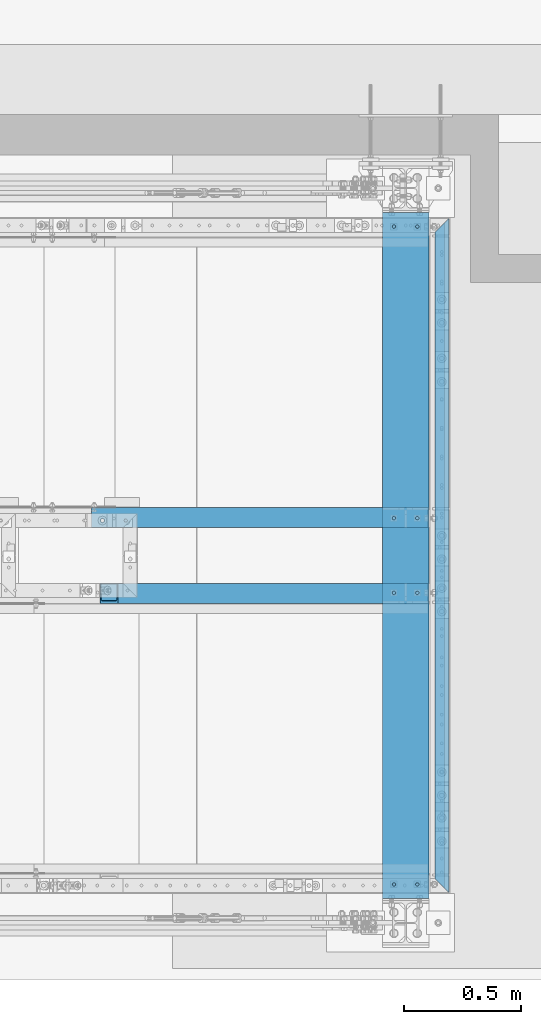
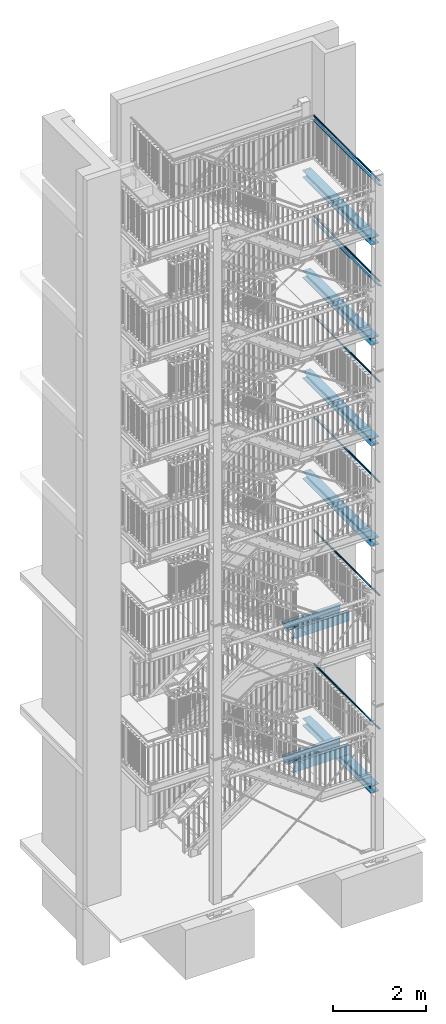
# One storey, part 128 of 825: 17 beams, 52 openings.
"""IFC2X3 building model written with IfcOpenShell, lengths in millimetres."""

from ifc_helpers import new_model, entity, si_unit, converted_unit, frame, frame_2d, origin, origin_with_axes, origin_2d, origin_2d_with_axis, place, context, project, spatial, rectangle, circle, hollow_circle, i_section, u_section, extrude, clip, halfspace, material, element, save


model = new_model("IFC2X3")

# Units and contexts
model_context = context("Model", 3, precision=1e-09, world=origin_with_axes())
ifc_project = project(units=[si_unit("LENGTHUNIT", "METRE", prefix="MILLI"), si_unit("AREAUNIT", "SQUARE_METRE"), si_unit("VOLUMEUNIT", "CUBIC_METRE"), converted_unit("PLANEANGLEUNIT", "DEGREE", entity("IfcPlaneAngleMeasure", 0.01745329), si_unit("PLANEANGLEUNIT", "RADIAN"), dimensions=[0, 0, 0, 0, 0, 0, 0])], contexts=[model_context])

# Site, building, storey
site_placement = place(None, origin_with_axes())
site = spatial("IfcSite", under=ifc_project, at=site_placement, Name="Cnopf'sche Kinderklinik", CompositionType="ELEMENT")
building_placement = place(site_placement, origin_with_axes())
building = spatial("IfcBuilding", under=site, at=building_placement, Name="Struktur 1", CompositionType="ELEMENT")
storey_placement = place(building_placement, origin_with_axes())
storey = spatial("IfcBuildingStorey", under=building, at=storey_placement, Name="Default Storey", CompositionType="ELEMENT", Elevation=0.0)

# Beam, openings
ifc_material = material(Name="S235JR")
beam_1_placement = place(None, frame((8866.713402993, 7559.668114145, 1846.0526312), z_axis=(0.0, -1.0, 0.0), x_axis=(-1.0, 0.0, 0.0)))
beam_1 = element("IfcBeam", 1, at=beam_1_placement, inside=storey, material=ifc_material, Name="Girder", ObjectType="Girder", context=model_context, shape_type="Clipping", body=[
    clip(clip(extrude(i_section(OverallWidth=200.0, OverallDepth=190.0, WebThickness=6.5, FlangeThickness=10.0, FilletRadius=18.0, at=origin_2d()), origin(), (0.0, 0.0, 1.0), 3235.862284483), halfspace(frame((8866.713402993, 1846.0526312, 147.932142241), z_axis=(0.0, 0.0, 1.0), x_axis=(-1.0, 0.0, 0.0)), True)), halfspace(frame((8866.713402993, 1846.0526312, 3087.930142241), z_axis=(0.0, 0.0, -1.0), x_axis=(1.0, 0.0, 0.0)), True)),
])
opening_1_placement = place(beam_1_placement, frame((-50.0, -84.5, 1784.932142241), z_axis=(0.0, 1.0, 0.0), x_axis=(-1.0, 0.0, 0.0)))
element("IfcOpeningElement", 2, at=opening_1_placement, cuts=beam_1, ObjectType="Opening", context=model_context, shape_type="SweptSolid", body=[
    extrude(circle(Radius=7.001, at=frame_2d((0.0, -7.001), x_axis=(1.0, 0.0))), origin(), (0.0, 0.0, -1.0), 11.0),
])
opening_2_placement = place(beam_1_placement, frame((50.0, -84.5, 207.931142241), z_axis=(0.0, -1.0, 0.0), x_axis=(0.0, 0.0, -1.0)))
element("IfcOpeningElement", 3, at=opening_2_placement, cuts=beam_1, ObjectType="Opening", context=model_context, shape_type="SweptSolid", body=[
    extrude(circle(Radius=7.001, at=origin_2d_with_axis()), origin(), (0.0, 0.0, 1.0), 11.0),
])
opening_3_placement = place(beam_1_placement, frame((50.0, -84.5, 1457.931142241), z_axis=(0.0, -1.0, 0.0), x_axis=(0.0, 0.0, -1.0)))
element("IfcOpeningElement", 4, at=opening_3_placement, cuts=beam_1, ObjectType="Opening", context=model_context, shape_type="SweptSolid", body=[
    extrude(circle(Radius=7.001, at=origin_2d_with_axis()), origin(), (0.0, 0.0, 1.0), 11.0),
])
opening_4_placement = place(beam_1_placement, frame((50.0, -84.5, 3034.932142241), z_axis=(0.0, 1.0, 0.0), x_axis=(-1.0, 0.0, 0.0)))
element("IfcOpeningElement", 5, at=opening_4_placement, cuts=beam_1, ObjectType="Opening", context=model_context, shape_type="SweptSolid", body=[
    extrude(circle(Radius=7.001, at=frame_2d((0.0, -7.001), x_axis=(1.0, 0.0))), origin(), (0.0, 0.0, -1.0), 11.0),
])
opening_5_placement = place(beam_1_placement, frame((-50.0, -84.5, 207.931142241), z_axis=(0.0, -1.0, 0.0), x_axis=(0.0, 0.0, -1.0)))
element("IfcOpeningElement", 6, at=opening_5_placement, cuts=beam_1, ObjectType="Opening", context=model_context, shape_type="SweptSolid", body=[
    extrude(circle(Radius=7.001, at=origin_2d_with_axis()), origin(), (0.0, 0.0, 1.0), 11.0),
])
opening_6_placement = place(beam_1_placement, frame((-50.0, -84.5, 3034.932142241), z_axis=(0.0, 1.0, 0.0), x_axis=(-1.0, 0.0, 0.0)))
element("IfcOpeningElement", 7, at=opening_6_placement, cuts=beam_1, ObjectType="Opening", context=model_context, shape_type="SweptSolid", body=[
    extrude(circle(Radius=7.001, at=frame_2d((0.0, -7.001), x_axis=(1.0, 0.0))), origin(), (0.0, 0.0, -1.0), 11.0),
])
opening_7_placement = place(beam_1_placement, frame((-50.0, -84.5, 1457.931142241), z_axis=(0.0, -1.0, 0.0), x_axis=(0.0, 0.0, -1.0)))
element("IfcOpeningElement", 8, at=opening_7_placement, cuts=beam_1, ObjectType="Opening", context=model_context, shape_type="SweptSolid", body=[
    extrude(circle(Radius=7.001, at=origin_2d_with_axis()), origin(), (0.0, 0.0, 1.0), 11.0),
])
opening_8_placement = place(beam_1_placement, frame((50.0, -84.5, 1784.932142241), z_axis=(0.0, 1.0, 0.0), x_axis=(-1.0, 0.0, 0.0)))
element("IfcOpeningElement", 9, at=opening_8_placement, cuts=beam_1, ObjectType="Opening", context=model_context, shape_type="SweptSolid", body=[
    extrude(circle(Radius=7.001, at=frame_2d((0.0, -7.001), x_axis=(1.0, 0.0))), origin(), (0.0, 0.0, -1.0), 11.0),
])

beam_2_placement = place(None, frame((8866.713402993, 7559.668114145, 8301.0), z_axis=(0.0, -1.0, 0.0), x_axis=(-1.0, 0.0, 0.0)))
beam_2 = element("IfcBeam", 10, at=beam_2_placement, inside=storey, material=ifc_material, Name="Girder", ObjectType="Girder", context=model_context, shape_type="Clipping", body=[
    clip(clip(extrude(i_section(OverallWidth=200.0, OverallDepth=190.0, WebThickness=6.5, FlangeThickness=10.0, FilletRadius=18.0, at=origin_2d()), origin(), (0.0, 0.0, 1.0), 3235.862284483), halfspace(frame((8866.713402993, 8301.0, 3087.930142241), z_axis=(0.0, 0.0, -1.0), x_axis=(1.0, 0.0, 0.0)), True)), halfspace(frame((8866.713402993, 8301.0, 147.932142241), z_axis=(0.0, 0.0, 1.0), x_axis=(-1.0, 0.0, 0.0)), True)),
])
opening_9_placement = place(beam_2_placement, frame((-50.0, -84.5, 207.931142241), z_axis=(0.0, -1.0, 0.0), x_axis=(0.0, 0.0, -1.0)))
element("IfcOpeningElement", 11, at=opening_9_placement, cuts=beam_2, ObjectType="Opening", context=model_context, shape_type="SweptSolid", body=[
    extrude(circle(Radius=7.001, at=origin_2d_with_axis()), origin(), (0.0, 0.0, 1.0), 11.0),
])
opening_10_placement = place(beam_2_placement, frame((50.0, -84.5, 3034.932142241), z_axis=(0.0, 1.0, 0.0), x_axis=(-1.0, 0.0, 0.0)))
element("IfcOpeningElement", 12, at=opening_10_placement, cuts=beam_2, ObjectType="Opening", context=model_context, shape_type="SweptSolid", body=[
    extrude(circle(Radius=7.001, at=frame_2d((0.0, -7.001), x_axis=(1.0, 0.0))), origin(), (0.0, 0.0, -1.0), 11.0),
])
opening_11_placement = place(beam_2_placement, frame((50.0, -84.5, 1784.932142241), z_axis=(0.0, 1.0, 0.0), x_axis=(-1.0, 0.0, 0.0)))
element("IfcOpeningElement", 13, at=opening_11_placement, cuts=beam_2, ObjectType="Opening", context=model_context, shape_type="SweptSolid", body=[
    extrude(circle(Radius=7.001, at=frame_2d((0.0, -7.001), x_axis=(1.0, 0.0))), origin(), (0.0, 0.0, -1.0), 11.0),
])
opening_12_placement = place(beam_2_placement, frame((-50.0, -84.5, 3034.932142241), z_axis=(0.0, 1.0, 0.0), x_axis=(-1.0, 0.0, 0.0)))
element("IfcOpeningElement", 14, at=opening_12_placement, cuts=beam_2, ObjectType="Opening", context=model_context, shape_type="SweptSolid", body=[
    extrude(circle(Radius=7.001, at=frame_2d((0.0, -7.001), x_axis=(1.0, 0.0))), origin(), (0.0, 0.0, -1.0), 11.0),
])
opening_13_placement = place(beam_2_placement, frame((50.0, -84.5, 1457.931142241), z_axis=(0.0, -1.0, 0.0), x_axis=(0.0, 0.0, -1.0)))
element("IfcOpeningElement", 15, at=opening_13_placement, cuts=beam_2, ObjectType="Opening", context=model_context, shape_type="SweptSolid", body=[
    extrude(circle(Radius=7.001, at=origin_2d_with_axis()), origin(), (0.0, 0.0, 1.0), 11.0),
])
opening_14_placement = place(beam_2_placement, frame((50.0, -84.5, 207.931142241), z_axis=(0.0, -1.0, 0.0), x_axis=(0.0, 0.0, -1.0)))
element("IfcOpeningElement", 16, at=opening_14_placement, cuts=beam_2, ObjectType="Opening", context=model_context, shape_type="SweptSolid", body=[
    extrude(circle(Radius=7.001, at=origin_2d_with_axis()), origin(), (0.0, 0.0, 1.0), 11.0),
])
opening_15_placement = place(beam_2_placement, frame((-50.0, -84.5, 1784.932142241), z_axis=(0.0, 1.0, 0.0), x_axis=(-1.0, 0.0, 0.0)))
element("IfcOpeningElement", 17, at=opening_15_placement, cuts=beam_2, ObjectType="Opening", context=model_context, shape_type="SweptSolid", body=[
    extrude(circle(Radius=7.001, at=frame_2d((0.0, -7.001), x_axis=(1.0, 0.0))), origin(), (0.0, 0.0, -1.0), 11.0),
])
opening_16_placement = place(beam_2_placement, frame((-50.0, -84.5, 1457.931142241), z_axis=(0.0, -1.0, 0.0), x_axis=(0.0, 0.0, -1.0)))
element("IfcOpeningElement", 18, at=opening_16_placement, cuts=beam_2, ObjectType="Opening", context=model_context, shape_type="SweptSolid", body=[
    extrude(circle(Radius=7.001, at=origin_2d_with_axis()), origin(), (0.0, 0.0, 1.0), 11.0),
])

beam_3_placement = place(None, frame((8866.713402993, 7559.668114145, 10930.5000003), z_axis=(0.0, -1.0, 0.0), x_axis=(-1.0, 0.0, 0.0)))
beam_3 = element("IfcBeam", 19, at=beam_3_placement, inside=storey, material=ifc_material, Name="Girder", ObjectType="Girder", context=model_context, shape_type="Clipping", body=[
    clip(clip(extrude(i_section(OverallWidth=200.0, OverallDepth=190.0, WebThickness=6.5, FlangeThickness=10.0, FilletRadius=18.0, at=origin_2d()), origin(), (0.0, 0.0, 1.0), 3235.862284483), halfspace(frame((8866.713402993, 10930.5000003, 3087.930142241), z_axis=(0.0, 0.0, -1.0), x_axis=(1.0, 0.0, 0.0)), True)), halfspace(frame((8866.713402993, 10930.5000003, 147.932142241), z_axis=(0.0, 0.0, 1.0), x_axis=(-1.0, 0.0, 0.0)), True)),
])
opening_17_placement = place(beam_3_placement, frame((-50.0, -84.5, 1784.932142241), z_axis=(0.0, 1.0, 0.0), x_axis=(-1.0, 0.0, 0.0)))
element("IfcOpeningElement", 20, at=opening_17_placement, cuts=beam_3, ObjectType="Opening", context=model_context, shape_type="SweptSolid", body=[
    extrude(circle(Radius=7.001, at=frame_2d((0.0, -7.001), x_axis=(1.0, 0.0))), origin(), (0.0, 0.0, -1.0), 11.0),
])
opening_18_placement = place(beam_3_placement, frame((50.0, -84.5, 1457.931142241), z_axis=(0.0, -1.0, 0.0), x_axis=(0.0, 0.0, -1.0)))
element("IfcOpeningElement", 21, at=opening_18_placement, cuts=beam_3, ObjectType="Opening", context=model_context, shape_type="SweptSolid", body=[
    extrude(circle(Radius=7.001, at=origin_2d_with_axis()), origin(), (0.0, 0.0, 1.0), 11.0),
])
opening_19_placement = place(beam_3_placement, frame((50.0, -84.5, 207.931142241), z_axis=(0.0, -1.0, 0.0), x_axis=(0.0, 0.0, -1.0)))
element("IfcOpeningElement", 22, at=opening_19_placement, cuts=beam_3, ObjectType="Opening", context=model_context, shape_type="SweptSolid", body=[
    extrude(circle(Radius=7.001, at=origin_2d_with_axis()), origin(), (0.0, 0.0, 1.0), 11.0),
])
opening_20_placement = place(beam_3_placement, frame((50.0, -84.5, 3034.932142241), z_axis=(0.0, 1.0, 0.0), x_axis=(-1.0, 0.0, 0.0)))
element("IfcOpeningElement", 23, at=opening_20_placement, cuts=beam_3, ObjectType="Opening", context=model_context, shape_type="SweptSolid", body=[
    extrude(circle(Radius=7.001, at=frame_2d((0.0, -7.001), x_axis=(1.0, 0.0))), origin(), (0.0, 0.0, -1.0), 11.0),
])
opening_21_placement = place(beam_3_placement, frame((-50.0, -84.5, 207.931142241), z_axis=(0.0, -1.0, 0.0), x_axis=(0.0, 0.0, -1.0)))
element("IfcOpeningElement", 24, at=opening_21_placement, cuts=beam_3, ObjectType="Opening", context=model_context, shape_type="SweptSolid", body=[
    extrude(circle(Radius=7.001, at=origin_2d_with_axis()), origin(), (0.0, 0.0, 1.0), 11.0),
])
opening_22_placement = place(beam_3_placement, frame((50.0, -84.5, 1784.932142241), z_axis=(0.0, 1.0, 0.0), x_axis=(-1.0, 0.0, 0.0)))
element("IfcOpeningElement", 25, at=opening_22_placement, cuts=beam_3, ObjectType="Opening", context=model_context, shape_type="SweptSolid", body=[
    extrude(circle(Radius=7.001, at=frame_2d((0.0, -7.001), x_axis=(1.0, 0.0))), origin(), (0.0, 0.0, -1.0), 11.0),
])
opening_23_placement = place(beam_3_placement, frame((-50.0, -84.5, 1457.931142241), z_axis=(0.0, -1.0, 0.0), x_axis=(0.0, 0.0, -1.0)))
element("IfcOpeningElement", 26, at=opening_23_placement, cuts=beam_3, ObjectType="Opening", context=model_context, shape_type="SweptSolid", body=[
    extrude(circle(Radius=7.001, at=origin_2d_with_axis()), origin(), (0.0, 0.0, 1.0), 11.0),
])
opening_24_placement = place(beam_3_placement, frame((-50.0, -84.5, 3034.932142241), z_axis=(0.0, 1.0, 0.0), x_axis=(-1.0, 0.0, 0.0)))
element("IfcOpeningElement", 27, at=opening_24_placement, cuts=beam_3, ObjectType="Opening", context=model_context, shape_type="SweptSolid", body=[
    extrude(circle(Radius=7.001, at=frame_2d((0.0, -7.001), x_axis=(1.0, 0.0))), origin(), (0.0, 0.0, -1.0), 11.0),
])

beam_4_placement = place(None, frame((8866.713402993, 7559.668114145, 13561.5000001), z_axis=(0.0, -1.0, 0.0), x_axis=(-1.0, 0.0, 0.0)))
beam_4 = element("IfcBeam", 28, at=beam_4_placement, inside=storey, material=ifc_material, Name="Girder", ObjectType="Girder", context=model_context, shape_type="Clipping", body=[
    clip(clip(extrude(i_section(OverallWidth=200.0, OverallDepth=190.0, WebThickness=6.5, FlangeThickness=10.0, FilletRadius=18.0, at=origin_2d()), origin(), (0.0, 0.0, 1.0), 3235.862284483), halfspace(frame((8866.713402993, 13561.5000001, 3087.930142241), z_axis=(0.0, 0.0, -1.0), x_axis=(1.0, 0.0, 0.0)), True)), halfspace(frame((8866.713402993, 13561.5000001, 147.932142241), z_axis=(0.0, 0.0, 1.0), x_axis=(-1.0, 0.0, 0.0)), True)),
])
opening_25_placement = place(beam_4_placement, frame((50.0, -84.5, 1457.931142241), z_axis=(0.0, -1.0, 0.0), x_axis=(0.0, 0.0, -1.0)))
element("IfcOpeningElement", 29, at=opening_25_placement, cuts=beam_4, ObjectType="Opening", context=model_context, shape_type="SweptSolid", body=[
    extrude(circle(Radius=7.001, at=origin_2d_with_axis()), origin(), (0.0, 0.0, 1.0), 11.0),
])
opening_26_placement = place(beam_4_placement, frame((50.0, -84.5, 207.931142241), z_axis=(0.0, -1.0, 0.0), x_axis=(0.0, 0.0, -1.0)))
element("IfcOpeningElement", 30, at=opening_26_placement, cuts=beam_4, ObjectType="Opening", context=model_context, shape_type="SweptSolid", body=[
    extrude(circle(Radius=7.001, at=origin_2d_with_axis()), origin(), (0.0, 0.0, 1.0), 11.0),
])
opening_27_placement = place(beam_4_placement, frame((-50.0, -84.5, 3034.932142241), z_axis=(0.0, 1.0, 0.0), x_axis=(-1.0, 0.0, 0.0)))
element("IfcOpeningElement", 31, at=opening_27_placement, cuts=beam_4, ObjectType="Opening", context=model_context, shape_type="SweptSolid", body=[
    extrude(circle(Radius=7.001, at=frame_2d((0.0, -7.001), x_axis=(1.0, 0.0))), origin(), (0.0, 0.0, -1.0), 11.0),
])
opening_28_placement = place(beam_4_placement, frame((-50.0, -84.5, 1457.931142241), z_axis=(0.0, -1.0, 0.0), x_axis=(0.0, 0.0, -1.0)))
element("IfcOpeningElement", 32, at=opening_28_placement, cuts=beam_4, ObjectType="Opening", context=model_context, shape_type="SweptSolid", body=[
    extrude(circle(Radius=7.001, at=origin_2d_with_axis()), origin(), (0.0, 0.0, 1.0), 11.0),
])
opening_29_placement = place(beam_4_placement, frame((50.0, -84.5, 3034.932142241), z_axis=(0.0, 1.0, 0.0), x_axis=(-1.0, 0.0, 0.0)))
element("IfcOpeningElement", 33, at=opening_29_placement, cuts=beam_4, ObjectType="Opening", context=model_context, shape_type="SweptSolid", body=[
    extrude(circle(Radius=7.001, at=frame_2d((0.0, -7.001), x_axis=(1.0, 0.0))), origin(), (0.0, 0.0, -1.0), 11.0),
])
opening_30_placement = place(beam_4_placement, frame((-50.0, -84.5, 1784.932142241), z_axis=(0.0, 1.0, 0.0), x_axis=(-1.0, 0.0, 0.0)))
element("IfcOpeningElement", 34, at=opening_30_placement, cuts=beam_4, ObjectType="Opening", context=model_context, shape_type="SweptSolid", body=[
    extrude(circle(Radius=7.001, at=frame_2d((0.0, -7.001), x_axis=(1.0, 0.0))), origin(), (0.0, 0.0, -1.0), 11.0),
])
opening_31_placement = place(beam_4_placement, frame((50.0, -84.5, 1784.932142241), z_axis=(0.0, 1.0, 0.0), x_axis=(-1.0, 0.0, 0.0)))
element("IfcOpeningElement", 35, at=opening_31_placement, cuts=beam_4, ObjectType="Opening", context=model_context, shape_type="SweptSolid", body=[
    extrude(circle(Radius=7.001, at=frame_2d((0.0, -7.001), x_axis=(1.0, 0.0))), origin(), (0.0, 0.0, -1.0), 11.0),
])
opening_32_placement = place(beam_4_placement, frame((-50.0, -84.5, 207.931142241), z_axis=(0.0, -1.0, 0.0), x_axis=(0.0, 0.0, -1.0)))
element("IfcOpeningElement", 36, at=opening_32_placement, cuts=beam_4, ObjectType="Opening", context=model_context, shape_type="SweptSolid", body=[
    extrude(circle(Radius=7.001, at=origin_2d_with_axis()), origin(), (0.0, 0.0, 1.0), 11.0),
])

beam_5_placement = place(None, frame((8866.713402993, 7559.668114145, 16189.0000003), z_axis=(0.0, -1.0, 0.0), x_axis=(-1.0, 0.0, 0.0)))
beam_5 = element("IfcBeam", 37, at=beam_5_placement, inside=storey, material=ifc_material, Name="Girder", ObjectType="Girder", context=model_context, shape_type="Clipping", body=[
    clip(clip(extrude(i_section(OverallWidth=200.0, OverallDepth=190.0, WebThickness=6.5, FlangeThickness=10.0, FilletRadius=18.0, at=origin_2d()), origin(), (0.0, 0.0, 1.0), 3235.862284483), halfspace(frame((8866.713402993, 16189.0000003, 3087.930142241), z_axis=(0.0, 0.0, -1.0), x_axis=(1.0, 0.0, 0.0)), True)), halfspace(frame((8866.713402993, 16189.0000003, 147.932142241), z_axis=(0.0, 0.0, 1.0), x_axis=(-1.0, 0.0, 0.0)), True)),
])
opening_33_placement = place(beam_5_placement, frame((50.0, -84.5, 1784.932142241), z_axis=(0.0, 1.0, 0.0), x_axis=(-1.0, 0.0, 0.0)))
element("IfcOpeningElement", 38, at=opening_33_placement, cuts=beam_5, ObjectType="Opening", context=model_context, shape_type="SweptSolid", body=[
    extrude(circle(Radius=7.001, at=frame_2d((0.0, -7.001), x_axis=(1.0, 0.0))), origin(), (0.0, 0.0, -1.0), 11.0),
])
opening_34_placement = place(beam_5_placement, frame((-50.0, -84.5, 1457.931142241), z_axis=(0.0, -1.0, 0.0), x_axis=(0.0, 0.0, -1.0)))
element("IfcOpeningElement", 39, at=opening_34_placement, cuts=beam_5, ObjectType="Opening", context=model_context, shape_type="SweptSolid", body=[
    extrude(circle(Radius=7.001, at=origin_2d_with_axis()), origin(), (0.0, 0.0, 1.0), 11.0),
])
opening_35_placement = place(beam_5_placement, frame((-50.0, -84.5, 207.931142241), z_axis=(0.0, -1.0, 0.0), x_axis=(0.0, 0.0, -1.0)))
element("IfcOpeningElement", 40, at=opening_35_placement, cuts=beam_5, ObjectType="Opening", context=model_context, shape_type="SweptSolid", body=[
    extrude(circle(Radius=7.001, at=origin_2d_with_axis()), origin(), (0.0, 0.0, 1.0), 11.0),
])
opening_36_placement = place(beam_5_placement, frame((50.0, -84.5, 1457.931142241), z_axis=(0.0, -1.0, 0.0), x_axis=(0.0, 0.0, -1.0)))
element("IfcOpeningElement", 41, at=opening_36_placement, cuts=beam_5, ObjectType="Opening", context=model_context, shape_type="SweptSolid", body=[
    extrude(circle(Radius=7.001, at=origin_2d_with_axis()), origin(), (0.0, 0.0, 1.0), 11.0),
])
opening_37_placement = place(beam_5_placement, frame((50.0, -84.5, 207.931142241), z_axis=(0.0, -1.0, 0.0), x_axis=(0.0, 0.0, -1.0)))
element("IfcOpeningElement", 42, at=opening_37_placement, cuts=beam_5, ObjectType="Opening", context=model_context, shape_type="SweptSolid", body=[
    extrude(circle(Radius=7.001, at=origin_2d_with_axis()), origin(), (0.0, 0.0, 1.0), 11.0),
])
opening_38_placement = place(beam_5_placement, frame((50.0, -84.5, 3034.932142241), z_axis=(0.0, 1.0, 0.0), x_axis=(-1.0, 0.0, 0.0)))
element("IfcOpeningElement", 43, at=opening_38_placement, cuts=beam_5, ObjectType="Opening", context=model_context, shape_type="SweptSolid", body=[
    extrude(circle(Radius=7.001, at=frame_2d((0.0, -7.001), x_axis=(1.0, 0.0))), origin(), (0.0, 0.0, -1.0), 11.0),
])
opening_39_placement = place(beam_5_placement, frame((-50.0, -84.5, 1784.932142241), z_axis=(0.0, 1.0, 0.0), x_axis=(-1.0, 0.0, 0.0)))
element("IfcOpeningElement", 44, at=opening_39_placement, cuts=beam_5, ObjectType="Opening", context=model_context, shape_type="SweptSolid", body=[
    extrude(circle(Radius=7.001, at=frame_2d((0.0, -7.001), x_axis=(1.0, 0.0))), origin(), (0.0, 0.0, -1.0), 11.0),
])
opening_40_placement = place(beam_5_placement, frame((-50.0, -84.5, 3034.932142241), z_axis=(0.0, 1.0, 0.0), x_axis=(-1.0, 0.0, 0.0)))
element("IfcOpeningElement", 45, at=opening_40_placement, cuts=beam_5, ObjectType="Opening", context=model_context, shape_type="SweptSolid", body=[
    extrude(circle(Radius=7.001, at=frame_2d((0.0, -7.001), x_axis=(1.0, 0.0))), origin(), (0.0, 0.0, -1.0), 11.0),
])

# Beams
beam_6_placement = place(None, frame((9012.913402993, 7390.336971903, 3321.0526312), z_axis=(0.0, 1.0, 0.0), x_axis=(0.0, 0.0, -1.0)))
element("IfcBeam", 46, at=beam_6_placement, inside=storey, material=ifc_material, Name="Gel?nder", ObjectType="Gel?nder", context=model_context, shape_type="Clipping", body=[
    clip(clip(extrude(hollow_circle(Radius=21.2, WallThickness=3.2, at=origin_2d()), origin(), (0.0, 0.0, -1.0), 2897.2), halfspace(frame((3321.0526312, 8180.424480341, -8222.825894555), z_axis=(0.0, -0.707106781, -0.707106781), x_axis=(0.0, -0.707106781, 0.707106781)), True)), halfspace(frame((3321.0526312, 2238.687508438, -616.111077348), z_axis=(0.0, -0.707106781, 0.707106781), x_axis=(0.0, 0.707106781, 0.707106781)), True)),
])
beam_7_placement = place(None, frame((9012.913402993, 7390.336971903, 6814.8947367), z_axis=(0.0, 1.0, 0.0), x_axis=(0.0, 0.0, -1.0)))
element("IfcBeam", 47, at=beam_7_placement, inside=storey, material=ifc_material, Name="Gel?nder", ObjectType="Gel?nder", context=model_context, shape_type="Clipping", body=[
    clip(clip(extrude(hollow_circle(Radius=21.2, WallThickness=3.2, at=origin_2d()), origin(), (0.0, 0.0, -1.0), 2897.2), halfspace(frame((6814.8947367, 8180.424480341, -8222.825894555), z_axis=(0.0, -0.707106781, -0.707106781), x_axis=(0.0, -0.707106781, 0.707106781)), True)), halfspace(frame((6814.8947367, 2238.687508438, -616.111077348), z_axis=(0.0, -0.707106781, 0.707106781), x_axis=(0.0, 0.707106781, 0.707106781)), True)),
])

# Beam, openings
beam_8_placement = place(None, frame((7260.434507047, 6124.436971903, 5554.8947367), z_axis=(-1.0, 0.0, 0.0), x_axis=(0.0, -1.0, 0.0)))
beam_8 = element("IfcBeam", 48, at=beam_8_placement, inside=storey, material=ifc_material, Name="Stringer", ObjectType="Stringer", context=model_context, shape_type="Clipping", body=[
    clip(clip(extrude(u_section(Depth=240.0, FlangeWidth=85.0, WebThickness=9.5, FlangeThickness=13.0, FilletRadius=13.0, EdgeRadius=6.5, FlangeSlope=4.574, at=frame_2d((20.2, 0.0))), origin(), (0.0, 0.0, -1.0), 1958.582666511), halfspace(frame((6124.436971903, -5554.8947367, -1701.277895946), z_axis=(0.0, 0.0, 1.0), x_axis=(1.0, 0.0, 0.0)), True)), halfspace(frame((6124.436971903, -2876.228700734, -1207.214407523), z_axis=(0.0, 0.301609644, -0.953431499), x_axis=(-1.0, 0.0, 0.0)), True)),
])
opening_41_placement = place(beam_8_placement, frame((32.7, 120.5, -399.278395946), z_axis=(0.0, 1.0, 0.0), x_axis=(-1.0, 0.0, 0.0)))
element("IfcOpeningElement", 49, at=opening_41_placement, cuts=beam_8, ObjectType="Opening", context=model_context, shape_type="SweptSolid", body=[
    extrude(circle(Radius=7.001, at=frame_2d((0.0, -7.001), x_axis=(1.0, 0.0))), origin(), (0.0, 0.0, -1.0), 14.0),
])
opening_42_placement = place(beam_8_placement, frame((32.7, 120.5, -299.278395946), z_axis=(0.0, 1.0, 0.0), x_axis=(-1.0, 0.0, 0.0)))
element("IfcOpeningElement", 50, at=opening_42_placement, cuts=beam_8, ObjectType="Opening", context=model_context, shape_type="SweptSolid", body=[
    extrude(circle(Radius=7.001, at=frame_2d((0.0, -7.001), x_axis=(1.0, 0.0))), origin(), (0.0, 0.0, -1.0), 14.0),
])
opening_43_placement = place(beam_8_placement, frame((22.7, -120.5, -1556.278895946), z_axis=(0.0, 1.0, 0.0), x_axis=(-1.0, 0.0, 0.0)))
element("IfcOpeningElement", 51, at=opening_43_placement, cuts=beam_8, ObjectType="Opening", context=model_context, shape_type="SweptSolid", body=[
    extrude(circle(Radius=7.001, at=origin_2d_with_axis()), origin(), (0.0, 0.0, 1.0), 14.0),
])
opening_44_placement = place(beam_8_placement, frame((22.7, -120.5, -1656.278895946), z_axis=(0.0, 1.0, 0.0), x_axis=(-1.0, 0.0, 0.0)))
element("IfcOpeningElement", 52, at=opening_44_placement, cuts=beam_8, ObjectType="Opening", context=model_context, shape_type="SweptSolid", body=[
    extrude(circle(Radius=7.001, at=origin_2d_with_axis()), origin(), (0.0, 0.0, 1.0), 14.0),
])

# Beams
beam_9_placement = place(None, frame((9012.913402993, 7390.336971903, 9776.0), z_axis=(0.0, 1.0, 0.0), x_axis=(0.0, 0.0, -1.0)))
element("IfcBeam", 53, at=beam_9_placement, inside=storey, material=ifc_material, Name="Gel?nder", ObjectType="Gel?nder", context=model_context, shape_type="Clipping", body=[
    clip(clip(extrude(hollow_circle(Radius=21.2, WallThickness=3.2, at=origin_2d()), origin(), (0.0, 0.0, -1.0), 2897.2), halfspace(frame((9776.0, 8180.424480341, -8222.825894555), z_axis=(0.0, -0.707106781, -0.707106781), x_axis=(0.0, -0.707106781, 0.707106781)), True)), halfspace(frame((9776.0, 2238.687508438, -616.111077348), z_axis=(0.0, -0.707106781, 0.707106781), x_axis=(0.0, 0.707106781, 0.707106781)), True)),
])
beam_10_placement = place(None, frame((9012.913402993, 7390.336971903, 12405.5000003), z_axis=(0.0, 1.0, 0.0), x_axis=(0.0, 0.0, -1.0)))
element("IfcBeam", 54, at=beam_10_placement, inside=storey, material=ifc_material, Name="Gel?nder", ObjectType="Gel?nder", context=model_context, shape_type="Clipping", body=[
    clip(clip(extrude(hollow_circle(Radius=21.2, WallThickness=3.2, at=origin_2d()), origin(), (0.0, 0.0, -1.0), 2897.2), halfspace(frame((12405.5000003, 8180.424480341, -8222.825894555), z_axis=(0.0, -0.707106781, -0.707106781), x_axis=(0.0, -0.707106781, 0.707106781)), True)), halfspace(frame((12405.5000003, 2238.687508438, -616.111077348), z_axis=(0.0, -0.707106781, 0.707106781), x_axis=(0.0, 0.707106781, 0.707106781)), True)),
])
beam_11_placement = place(None, frame((9012.913402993, 7390.336971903, 15036.5000001), z_axis=(0.0, 1.0, 0.0), x_axis=(0.0, 0.0, -1.0)))
element("IfcBeam", 55, at=beam_11_placement, inside=storey, material=ifc_material, Name="Gel?nder", ObjectType="Gel?nder", context=model_context, shape_type="Clipping", body=[
    clip(clip(extrude(hollow_circle(Radius=21.2, WallThickness=3.2, at=origin_2d()), origin(), (0.0, 0.0, -1.0), 2897.2), halfspace(frame((15036.5000001, 8180.424480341, -8222.825894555), z_axis=(0.0, -0.707106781, -0.707106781), x_axis=(0.0, -0.707106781, 0.707106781)), True)), halfspace(frame((15036.5000001, 2238.687508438, -616.111077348), z_axis=(0.0, -0.707106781, 0.707106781), x_axis=(0.0, 0.707106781, 0.707106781)), True)),
])

# Beam, openings
beam_12_placement = place(None, frame((7260.901415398, 6124.436971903, 2061.0526312), z_axis=(-1.0, 0.0, 0.0), x_axis=(0.0, -1.0, 0.0)))
beam_12 = element("IfcBeam", 56, at=beam_12_placement, inside=storey, material=ifc_material, Name="Stringer", ObjectType="Stringer", context=model_context, shape_type="Clipping", body=[
    clip(clip(extrude(u_section(Depth=240.0, FlangeWidth=85.0, WebThickness=9.5, FlangeThickness=13.0, FilletRadius=13.0, EdgeRadius=6.5, FlangeSlope=4.574, at=frame_2d((20.2, 0.0))), origin(), (0.0, 0.0, -1.0), 1958.11575816), halfspace(frame((6124.436971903, -2061.0526312, -1700.810987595), z_axis=(0.0, 0.0, 1.0), x_axis=(1.0, 0.0, 0.0)), True)), halfspace(frame((6124.436971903, 321.948595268, -195.084170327), z_axis=(0.0, 0.304437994, -0.952532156), x_axis=(-1.0, 0.0, 0.0)), True)),
])
opening_45_placement = place(beam_12_placement, frame((32.7, 120.5, -398.811487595), z_axis=(0.0, 1.0, 0.0), x_axis=(-1.0, 0.0, 0.0)))
element("IfcOpeningElement", 57, at=opening_45_placement, cuts=beam_12, ObjectType="Opening", context=model_context, shape_type="SweptSolid", body=[
    extrude(circle(Radius=7.001, at=frame_2d((0.0, -7.001), x_axis=(1.0, 0.0))), origin(), (0.0, 0.0, -1.0), 14.0),
])
opening_46_placement = place(beam_12_placement, frame((32.7, 120.5, -298.811487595), z_axis=(0.0, 1.0, 0.0), x_axis=(-1.0, 0.0, 0.0)))
element("IfcOpeningElement", 58, at=opening_46_placement, cuts=beam_12, ObjectType="Opening", context=model_context, shape_type="SweptSolid", body=[
    extrude(circle(Radius=7.001, at=frame_2d((0.0, -7.001), x_axis=(1.0, 0.0))), origin(), (0.0, 0.0, -1.0), 14.0),
])
opening_47_placement = place(beam_12_placement, frame((22.7, -120.5, -1555.811987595), z_axis=(0.0, 1.0, 0.0), x_axis=(-1.0, 0.0, 0.0)))
element("IfcOpeningElement", 59, at=opening_47_placement, cuts=beam_12, ObjectType="Opening", context=model_context, shape_type="SweptSolid", body=[
    extrude(circle(Radius=7.001, at=origin_2d_with_axis()), origin(), (0.0, 0.0, 1.0), 14.0),
])
opening_48_placement = place(beam_12_placement, frame((22.7, -120.5, -1655.811987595), z_axis=(0.0, 1.0, 0.0), x_axis=(-1.0, 0.0, 0.0)))
element("IfcOpeningElement", 60, at=opening_48_placement, cuts=beam_12, ObjectType="Opening", context=model_context, shape_type="SweptSolid", body=[
    extrude(circle(Radius=7.001, at=origin_2d_with_axis()), origin(), (0.0, 0.0, 1.0), 14.0),
])

# Beam
beam_13_placement = place(None, frame((9012.913402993, 7390.336971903, 17664.0000003), z_axis=(0.0, 1.0, 0.0), x_axis=(0.0, 0.0, -1.0)))
element("IfcBeam", 61, at=beam_13_placement, inside=storey, material=ifc_material, Name="Gel?nder", ObjectType="Gel?nder", context=model_context, shape_type="Clipping", body=[
    clip(clip(extrude(hollow_circle(Radius=21.2, WallThickness=3.2, at=origin_2d()), origin(), (0.0, 0.0, -1.0), 2897.2), halfspace(frame((17664.0000003, 8180.424480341, -8222.825894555), z_axis=(0.0, -0.707106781, -0.707106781), x_axis=(0.0, -0.707106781, 0.707106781)), True)), halfspace(frame((17664.0000003, 2238.687508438, -616.111077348), z_axis=(0.0, -0.707106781, 0.707106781), x_axis=(0.0, 0.707106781, 0.707106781)), True)),
])

# Beam, openings
beam_14_placement = place(None, frame((9219.017173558, 5759.036971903, 2061.0526312), z_axis=(1.0, 0.0, 0.0), x_axis=(0.0, 1.0, 0.0)))
beam_14 = element("IfcBeam", 62, at=beam_14_placement, inside=storey, material=ifc_material, Name="BottomLanding#1", ObjectType="BottomLanding#1", context=model_context, shape_type="Clipping", body=[
    clip(clip(extrude(u_section(Depth=240.0, FlangeWidth=85.0, WebThickness=9.5, FlangeThickness=13.0, FilletRadius=13.0, EdgeRadius=6.5, FlangeSlope=4.574, at=frame_2d((20.2, 0.0))), origin(), (0.0, 0.0, -1.0), 1845.747262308), halfspace(frame((-5759.036971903, -2061.0526312, -257.304770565), z_axis=(0.0, 0.0, -1.0), x_axis=(-1.0, 0.0, 0.0)), True)), halfspace(frame((-5759.036971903, -4072.348471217, -2926.031410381), z_axis=(0.0, -0.304437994, 0.952532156), x_axis=(1.0, 0.0, 0.0)), True)),
])
opening_49_placement = place(beam_14_placement, frame((15.699, -120.5, -402.303770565), z_axis=(0.0, -1.0, 0.0), x_axis=(1.0, 0.0, 0.0)))
element("IfcOpeningElement", 63, at=opening_49_placement, cuts=beam_14, ObjectType="Opening", context=model_context, shape_type="SweptSolid", body=[
    extrude(circle(Radius=7.001, at=frame_2d((7.001, 0.0), x_axis=(1.0, 0.0))), origin(), (0.0, 0.0, -1.0), 14.0),
])
opening_50_placement = place(beam_14_placement, frame((15.699, -120.5, -302.303770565), z_axis=(0.0, -1.0, 0.0), x_axis=(1.0, 0.0, 0.0)))
element("IfcOpeningElement", 64, at=opening_50_placement, cuts=beam_14, ObjectType="Opening", context=model_context, shape_type="SweptSolid", body=[
    extrude(circle(Radius=7.001, at=frame_2d((7.001, 0.0), x_axis=(1.0, 0.0))), origin(), (0.0, 0.0, -1.0), 14.0),
])

beam_15_placement = place(None, frame((9219.017173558, 5759.036971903, 5554.8947367), z_axis=(1.0, 0.0, 0.0), x_axis=(0.0, 1.0, 0.0)))
beam_15 = element("IfcBeam", 65, at=beam_15_placement, inside=storey, material=ifc_material, Name="BottomLanding#1", ObjectType="BottomLanding#1", context=model_context, shape_type="Clipping", body=[
    clip(clip(extrude(u_section(Depth=240.0, FlangeWidth=85.0, WebThickness=9.5, FlangeThickness=13.0, FilletRadius=13.0, EdgeRadius=6.5, FlangeSlope=4.574, at=frame_2d((20.2, 0.0))), origin(), (0.0, 0.0, -1.0), 1844.790556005), halfspace(frame((-5759.036971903, -5554.8947367, -257.304770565), z_axis=(0.0, 0.0, -1.0), x_axis=(-1.0, 0.0, 0.0)), True)), halfspace(frame((-5759.036971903, -7233.811372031, -3911.720022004), z_axis=(0.0, -0.301609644, 0.953431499), x_axis=(1.0, 0.0, 0.0)), True)),
])
opening_51_placement = place(beam_15_placement, frame((15.699, -120.5, -402.303770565), z_axis=(0.0, -1.0, 0.0), x_axis=(1.0, 0.0, 0.0)))
element("IfcOpeningElement", 66, at=opening_51_placement, cuts=beam_15, ObjectType="Opening", context=model_context, shape_type="SweptSolid", body=[
    extrude(circle(Radius=7.001, at=frame_2d((7.001, 0.0), x_axis=(1.0, 0.0))), origin(), (0.0, 0.0, -1.0), 14.0),
])
opening_52_placement = place(beam_15_placement, frame((15.699, -120.5, -302.303770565), z_axis=(0.0, -1.0, 0.0), x_axis=(1.0, 0.0, 0.0)))
element("IfcOpeningElement", 67, at=opening_52_placement, cuts=beam_15, ObjectType="Opening", context=model_context, shape_type="SweptSolid", body=[
    extrude(circle(Radius=7.001, at=frame_2d((7.001, 0.0), x_axis=(1.0, 0.0))), origin(), (0.0, 0.0, -1.0), 14.0),
])

# Beams
beam_16_placement = place(None, frame((9021.713402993, 7399.748598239, 17537.8000003), z_axis=(0.0, 1.0, 0.0), x_axis=(0.0, 0.0, -1.0)))
element("IfcBeam", 68, at=beam_16_placement, inside=storey, material=ifc_material, Name="Railing_Kneerail_Landing#1008", ObjectType="Railing_Kneerail_Landing#1008", context=model_context, shape_type="Clipping", body=[
    clip(clip(extrude(rectangle(XDim=10.0, YDim=60.0, at=origin_2d()), origin(), (0.0, 0.0, -1.0), 2916.02325267), halfspace(frame((17537.8000003, 8189.224480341, -8232.23752089), z_axis=(0.0, -0.707106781, -0.707106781), x_axis=(0.0, -0.707106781, 0.707106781)), True)), halfspace(frame((17537.8000003, 2247.487508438, -625.522703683), z_axis=(0.0, -0.707106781, 0.707106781), x_axis=(0.0, 0.707106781, 0.707106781)), True)),
])
beam_17_placement = place(None, frame((9021.713402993, 7399.748598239, 14910.3000001), z_axis=(0.0, 1.0, 0.0), x_axis=(0.0, 0.0, -1.0)))
element("IfcBeam", 69, at=beam_17_placement, inside=storey, material=ifc_material, Name="Railing_Kneerail_Landing#1011", ObjectType="Railing_Kneerail_Landing#1011", context=model_context, shape_type="Clipping", body=[
    clip(clip(extrude(rectangle(XDim=10.0, YDim=60.0, at=origin_2d()), origin(), (0.0, 0.0, -1.0), 2916.02325267), halfspace(frame((14910.3000001, 2247.487508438, -625.522703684), z_axis=(0.0, -0.707106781, 0.707106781), x_axis=(0.0, 0.707106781, 0.707106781)), True)), halfspace(frame((14910.3000001, 8189.224480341, -8232.23752089), z_axis=(0.0, -0.707106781, -0.707106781), x_axis=(0.0, -0.707106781, 0.707106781)), True)),
])

save(model, "model.ifc")
